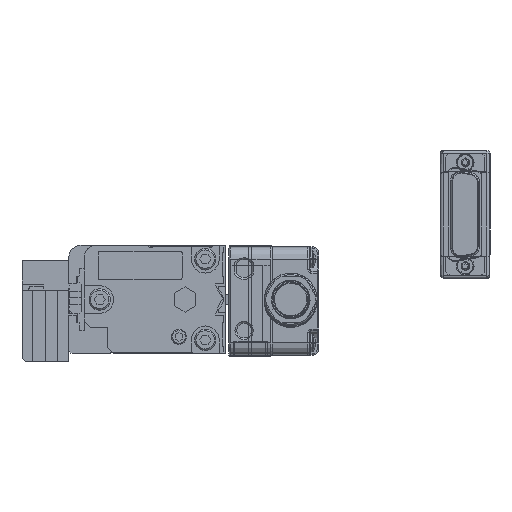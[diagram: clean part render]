
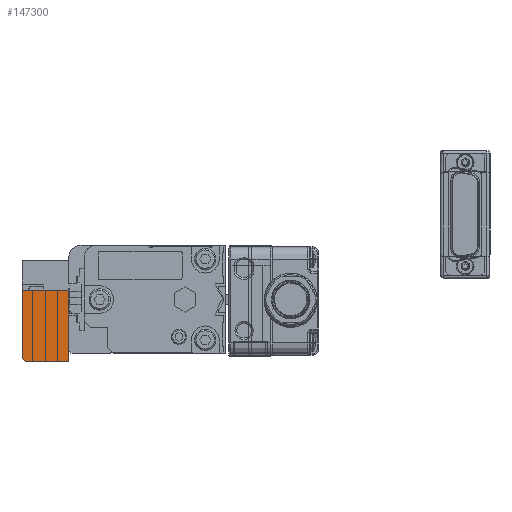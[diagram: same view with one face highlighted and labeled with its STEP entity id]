
A CAD part, left-side view. The second image highlights one B-rep face of the part: STEP entity #147300.
In plain terms, the highlighted planar face has unit normal (-1, 0, 0).
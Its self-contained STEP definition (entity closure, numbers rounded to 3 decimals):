
#19830=CARTESIAN_POINT('',(-5743.,107.5,12.51));
#19840=VERTEX_POINT('',#19830);
#69730=CARTESIAN_POINT('',(-5743.,107.5,1.51));
#69740=VERTEX_POINT('',#69730);
#69770=CARTESIAN_POINT('',(-5743.,107.5,17.3));
#69780=DIRECTION('',(0.,0.,-1.));
#69790=VECTOR('',#69780,1.);
#69800=LINE('',#69770,#69790);
#69810=EDGE_CURVE('',#19840,#69740,#69800,.T.);
#140260=CARTESIAN_POINT('',(-5743.,122.5,20.51));
#140270=VERTEX_POINT('',#140260);
#140300=CARTESIAN_POINT('',(-5743.,122.5,30.01));
#140310=DIRECTION('',(0.,0.,-1.));
#140320=VECTOR('',#140310,1.);
#140330=LINE('',#140300,#140320);
#140340=CARTESIAN_POINT('',(-5743.,122.5,-1.49));
#140350=VERTEX_POINT('',#140340);
#140360=EDGE_CURVE('',#140270,#140350,#140330,.T.);
#145880=CARTESIAN_POINT('',(-5743.,107.5,-2.49));
#145890=VERTEX_POINT('',#145880);
#145920=CARTESIAN_POINT('',(-5743.,107.5,16.81));
#145930=DIRECTION('',(0.,0.,1.));
#145940=VECTOR('',#145930,1.);
#145950=LINE('',#145920,#145940);
#145960=EDGE_CURVE('',#145890,#69740,#145950,.T.);
#146860=CARTESIAN_POINT('',(-5743.,107.5,20.51));
#146870=VERTEX_POINT('',#146860);
#146880=EDGE_CURVE('',#19840,#146870,#145950,.T.);
#146990=CARTESIAN_POINT('',(-5743.,107.5,30.01));
#147000=DIRECTION('',(-1.,-0.,-0.));
#147010=DIRECTION('',(0.,0.,-1.));
#147020=AXIS2_PLACEMENT_3D('',#146990,#147000,#147010);
#147030=PLANE('',#147020);
#147040=ORIENTED_EDGE('',*,*,#69810,.F.);
#147050=ORIENTED_EDGE('',*,*,#145960,.T.);
#147060=CARTESIAN_POINT('',(-5743.,90.75,-2.49));
#147070=DIRECTION('',(0.,-1.,0.));
#147080=VECTOR('',#147070,1.);
#147090=LINE('',#147060,#147080);
#147100=CARTESIAN_POINT('',(-5743.,121.5,-2.49));
#147110=VERTEX_POINT('',#147100);
#147120=EDGE_CURVE('',#147110,#145890,#147090,.T.);
#147130=ORIENTED_EDGE('',*,*,#147120,.T.);
#147140=CARTESIAN_POINT('',(-5743.,107.5,-16.49));
#147150=DIRECTION('',(0.,-0.707,-0.707));
#147160=VECTOR('',#147150,1.);
#147170=LINE('',#147140,#147160);
#147180=EDGE_CURVE('',#140350,#147110,#147170,.T.);
#147190=ORIENTED_EDGE('',*,*,#147180,.T.);
#147200=ORIENTED_EDGE('',*,*,#140360,.T.);
#147210=CARTESIAN_POINT('',(-5743.,107.5,20.51));
#147220=DIRECTION('',(0.,1.,0.));
#147230=VECTOR('',#147220,1.);
#147240=LINE('',#147210,#147230);
#147250=EDGE_CURVE('',#146870,#140270,#147240,.T.);
#147260=ORIENTED_EDGE('',*,*,#147250,.T.);
#147270=ORIENTED_EDGE('',*,*,#146880,.T.);
#147280=EDGE_LOOP('',(#147270,#147260,#147200,#147190,#147130,#147050,
#147040));
#147290=FACE_OUTER_BOUND('',#147280,.T.);
#147300=ADVANCED_FACE('',(#147290),#147030,.T.);
